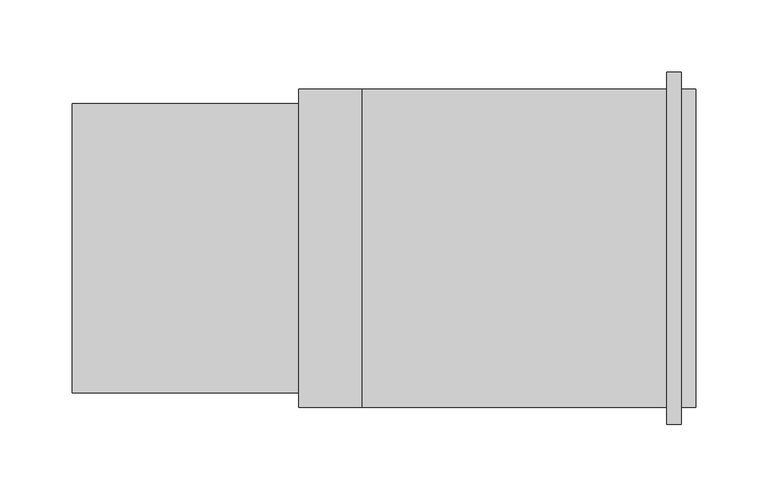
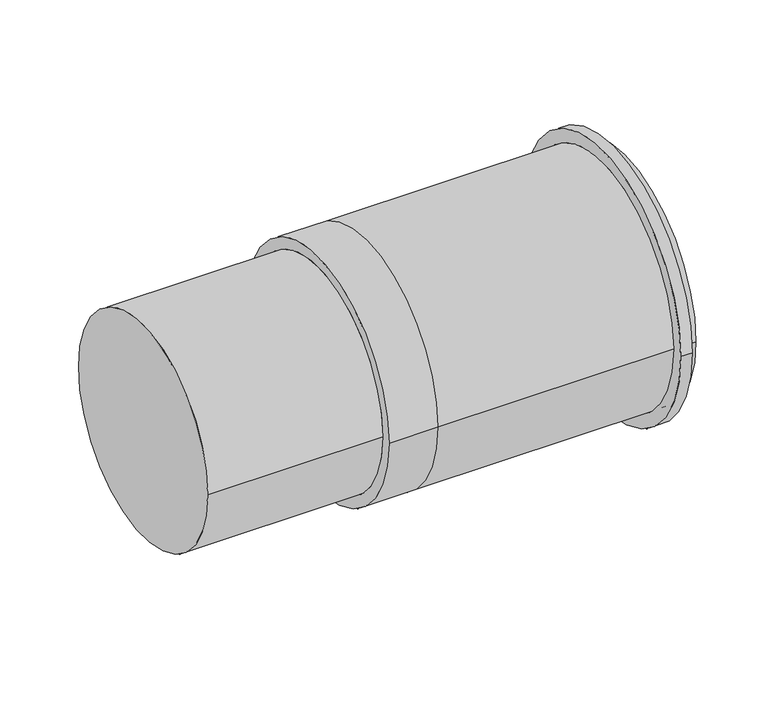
"""IFC4 building model written with IfcOpenShell, lengths in millimetres: pipe fitting geometry, NLRS_52_PIF_UN_PE expansiemof_PRO_101616_geb : DN200-300 / ø200-315 - OD."""

from ifc_helpers import new_model, si_unit, frame, origin, place, context, project, spatial, polyline, circle_curve, source, transform, mapped, element, save
from ifc_brep_helpers import plane_surface, cylinder_surface, revolved_surface, advanced_brep


def pipe_fitting_f3f9f784(model_context):
    return source(origin(), model_context, "Body", "AdvancedBrep", [
        advanced_brep(
        [(264.0, -121.5, 0.0), (264.0, 121.5, 0.0), (264.0, 110.0, 0.0), (264.0, -110.0, 0.0), (254.0, -121.5, 0.0), (254.0, 121.5, 0.0), (254.0, -110.0, 0.0), (254.0, 110.0, 0.0), (274.0, -110.0, 0.0), (274.0, 110.0, 0.0), (274.0, -100.0, 0.0), (274.0, 100.0, 0.0), (44.0, -100.0, 0.0), (44.0, 100.0, 0.0), (44.0, -110.0, 0.0), (44.0, 110.0, 0.0), (0.0, -110.0, 0.0), (0.0, 110.0, 0.0), (0.0, -100.0, 0.0), (0.0, 100.0, 0.0), (-156.0, -100.0, 0.0), (-156.0, 100.0, 0.0)],
        [
            (0, 1, circle_curve(frame((264.0, 0.0, 0.0), z_axis=(1.0, 0.0, 0.0), x_axis=(0.0, 1.0, 0.0)), 121.5)),
            (1, 0, circle_curve(frame((264.0, 0.0, 0.0), z_axis=(1.0, 0.0, 0.0), x_axis=(0.0, 1.0, 0.0)), 121.5)),
            (2, 3, circle_curve(frame((264.0, 0.0, 0.0), z_axis=(-1.0, 0.0, 0.0), x_axis=(0.0, 1.0, 0.0)), 110.0)),
            (3, 2, circle_curve(frame((264.0, 0.0, 0.0), z_axis=(-1.0, 0.0, 0.0), x_axis=(0.0, 1.0, 0.0)), 110.0)),
            (4, 5, circle_curve(frame((254.0, 0.0, 0.0), z_axis=(-1.0, 0.0, 0.0), x_axis=(0.0, 1.0, 0.0)), 121.5)),
            (5, 4, circle_curve(frame((254.0, 0.0, 0.0), z_axis=(-1.0, 0.0, 0.0), x_axis=(0.0, 1.0, 0.0)), 121.5)),
            (6, 7, circle_curve(frame((254.0, 0.0, 0.0), z_axis=(1.0, 0.0, 0.0), x_axis=(0.0, 1.0, 0.0)), 110.0)),
            (7, 6, circle_curve(frame((254.0, 0.0, 0.0), z_axis=(1.0, 0.0, 0.0), x_axis=(0.0, 1.0, 0.0)), 110.0)),
            (0, 4),
            (5, 1),
            (8, 9, circle_curve(frame((274.0, 0.0, 0.0), z_axis=(1.0, 0.0, 0.0), x_axis=(0.0, 1.0, 0.0)), 110.0)),
            (9, 8, circle_curve(frame((274.0, 0.0, 0.0), z_axis=(1.0, 0.0, 0.0), x_axis=(0.0, 1.0, 0.0)), 110.0)),
            (10, 11, circle_curve(frame((274.0, 0.0, 0.0), z_axis=(-1.0, 0.0, 0.0), x_axis=(0.0, 1.0, 0.0)), 100.0)),
            (11, 10, circle_curve(frame((274.0, 0.0, 0.0), z_axis=(-1.0, 0.0, 0.0), x_axis=(0.0, 1.0, 0.0)), 100.0)),
            (10, 12),
            (12, 13, circle_curve(frame((44.0, 0.0, 0.0), z_axis=(-1.0, 0.0, 0.0), x_axis=(0.0, 1.0, 0.0)), 100.0)),
            (13, 11),
            (13, 12, circle_curve(frame((44.0, 0.0, 0.0), z_axis=(-1.0, 0.0, 0.0), x_axis=(0.0, 1.0, 0.0)), 100.0)),
            (8, 3),
            (2, 9),
            (6, 14),
            (14, 15, circle_curve(frame((44.0, 0.0, 0.0), z_axis=(1.0, 0.0, 0.0), x_axis=(0.0, 1.0, 0.0)), 110.0)),
            (15, 7),
            (15, 14, circle_curve(frame((44.0, 0.0, 0.0), z_axis=(1.0, 0.0, 0.0), x_axis=(0.0, 1.0, 0.0)), 110.0)),
            (16, 17, circle_curve(frame((0.0, 0.0, 0.0), z_axis=(-1.0, 0.0, 0.0), x_axis=(0.0, 1.0, 0.0)), 110.0)),
            (17, 16, circle_curve(frame((0.0, 0.0, 0.0), z_axis=(-1.0, 0.0, 0.0), x_axis=(0.0, 1.0, 0.0)), 110.0)),
            (18, 19, circle_curve(frame((0.0, 0.0, 0.0), z_axis=(1.0, 0.0, 0.0), x_axis=(0.0, 1.0, 0.0)), 100.0)),
            (19, 18, circle_curve(frame((0.0, 0.0, 0.0), z_axis=(1.0, 0.0, 0.0), x_axis=(0.0, 1.0, 0.0)), 100.0)),
            (17, 15),
            (14, 16),
            (20, 21, circle_curve(frame((-156.0, 0.0, 0.0), z_axis=(-1.0, 0.0, 0.0), x_axis=(0.0, 1.0, 0.0)), 100.0)),
            (21, 20, circle_curve(frame((-156.0, 0.0, 0.0), z_axis=(-1.0, 0.0, 0.0), x_axis=(0.0, 1.0, 0.0)), 100.0)),
            (21, 19),
            (18, 20),
        ],
        [
            plane_surface(frame((264.0, 121.5, 0.0), z_axis=(1.0, 0.0, 0.0), x_axis=(0.0, 0.0, 1.0))),
            plane_surface(frame((254.0, 121.5, 0.0), z_axis=(-1.0, 0.0, 0.0), x_axis=(0.0, 0.0, -1.0))),
            cylinder_surface(frame((254.0, 0.0, 0.0), z_axis=(1.0, 0.0, 0.0), x_axis=(0.0, 1.0, 0.0)), 121.5),
            plane_surface(frame((274.0, 100.0, 0.0), z_axis=(1.0, 0.0, 0.0), x_axis=(0.0, 0.0, -1.0))),
            revolved_surface(polyline([(44.0, 100.0, 0.0), (274.0, 100.0, 0.0)]), (44.0, 0.0, 0.0), (-1.0, 0.0, 0.0)),
            cylinder_surface(frame((0.0, 0.0, 0.0), z_axis=(1.0, 0.0, 0.0), x_axis=(0.0, 1.0, 0.0)), 110.0),
            plane_surface(frame((44.0, 110.0, 0.0), z_axis=(1.0, 0.0, 0.0), x_axis=(0.0, 0.0, 1.0))),
            plane_surface(frame((0.0, 110.0, 0.0), z_axis=(-1.0, 0.0, 0.0), x_axis=(0.0, 0.0, -1.0))),
            plane_surface(frame((-156.0, 100.0, 0.0), z_axis=(-1.0, 0.0, 0.0), x_axis=(0.0, 0.0, -1.0))),
            cylinder_surface(frame((-156.0, 0.0, 0.0), z_axis=(1.0, 0.0, 0.0), x_axis=(0.0, 1.0, 0.0)), 100.0),
        ],
        [
            (0, [[1, 2], [3, 4]]),
            (1, [[5, 6], [7, 8]]),
            (2, [[-1, 9, -6, 10]]),
            (2, [[-2, -10, -5, -9]]),
            (3, [[11, 12], [13, 14]]),
            (4, [[-13, 15, 16, 17]]),
            (4, [[-14, -17, 18, -15]]),
            (5, [[-11, 19, -3, 20]]),
            (5, [[21, 22, 23, -7]]),
            (5, [[-12, -20, -4, -19]]),
            (5, [[-21, -8, -23, 24]]),
            (6, [[-16, -18]]),
            (7, [[25, 26], [27, 28]]),
            (5, [[-26, 29, -22, 30]]),
            (5, [[-25, -30, -24, -29]]),
            (8, [[31, 32]]),
            (9, [[-32, 33, -27, 34]]),
            (9, [[-31, -34, -28, -33]]),
        ],
    ),
    ])


if __name__ == "__main__":
    model = new_model("IFC4")
    model_context = context("Model", 3, world=origin())
    ifc_project = project(units=[si_unit("LENGTHUNIT", "METRE", prefix="MILLI")], contexts=[model_context])
    site = spatial("IfcSite", under=ifc_project)
    building = spatial("IfcBuilding", under=site)
    placement = place(None, origin())
    pipe_fitting_shape = pipe_fitting_f3f9f784(model_context)
    element("IfcPipeFitting", 1, ObjectType="NLRS_52_PIF_UN_PE expansiemof_PRO_101616_geb : DN200-300 / ø200-315 - OD", at=placement, inside=building, context=model_context, shape_type="MappedRepresentation", body=[
        mapped(pipe_fitting_shape, transform((0.0, 0.0, 0.0), x_axis=(1.0, 0.0, 0.0), y_axis=(0.0, 1.0, 0.0), z_axis=(0.0, 0.0, 1.0))),
    ])
    save(model, "model.ifc")
